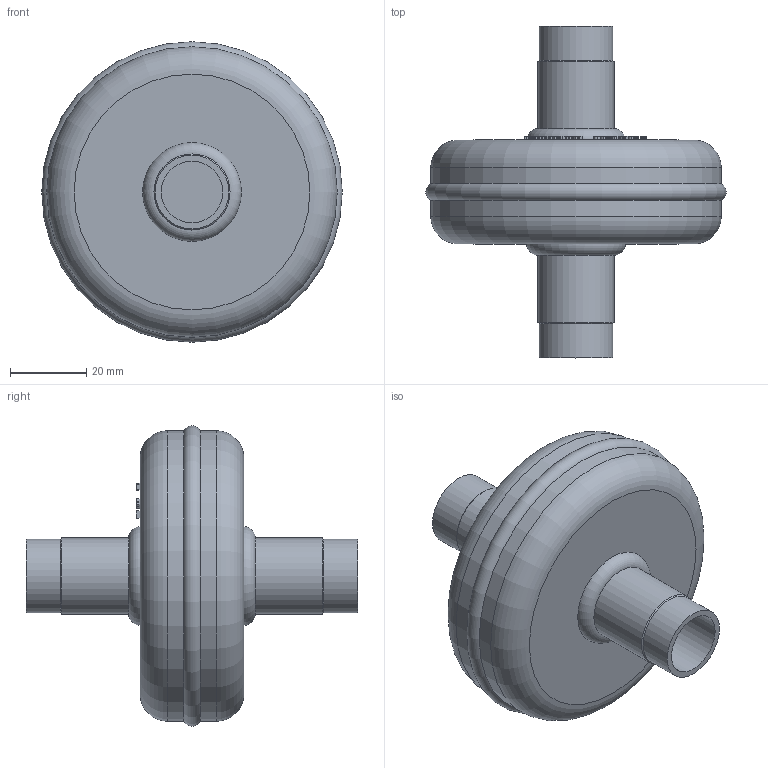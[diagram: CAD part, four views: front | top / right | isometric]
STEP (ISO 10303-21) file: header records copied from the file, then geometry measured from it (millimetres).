
FILE_DESCRIPTION(/* description */ (''),/* implementation_level */ '2;1');
FILE_NAME(/* name */ 'P:\F\F-16L\F-16L.stp',/* time_stamp */ '2017-10-05T08:17:33+02:00',/* author */ ('neufeld'),/* organization */ (''),/* preprocessor_version */ 'ST-DEVELOPER v16.1',/* originating_system */ 'Autodesk Inventor 2016',/* authorisation */ '');
FILE_SCHEMA (('AUTOMOTIVE_DESIGN { 1 0 10303 214 3 1 1 }'));
Length unit declared in the file: millimetre
Products named in the file (2): F-16L; F-16L_1
Assembly tree (1 placements, depth 2):
  F-16L_1
    F-16L
Bounding box: 79.03 x 87.31 x 79.03 mm (x, y, z)
Volume: 135254.6 mm3; surface area: 19706.2 mm2
Topology: 1 solids, 1 shells, 726 faces, 1995 edges, 1328 vertices
Faces by surface type: plane 508, bspline 203, cylinder 8, torus 5, cone 2
Full cylindrical faces by diameter (mm): 16.2 x2, 19.4 x2, 20 x2, 76.4 x2
Entity records: 24270 total; most frequent: CARTESIAN_POINT 7216, ORIENTED_EDGE 3952, DIRECTION 2642, EDGE_CURVE 1976, LINE 1550, VECTOR 1550, VERTEX_POINT 1324, EDGE_LOOP 798
